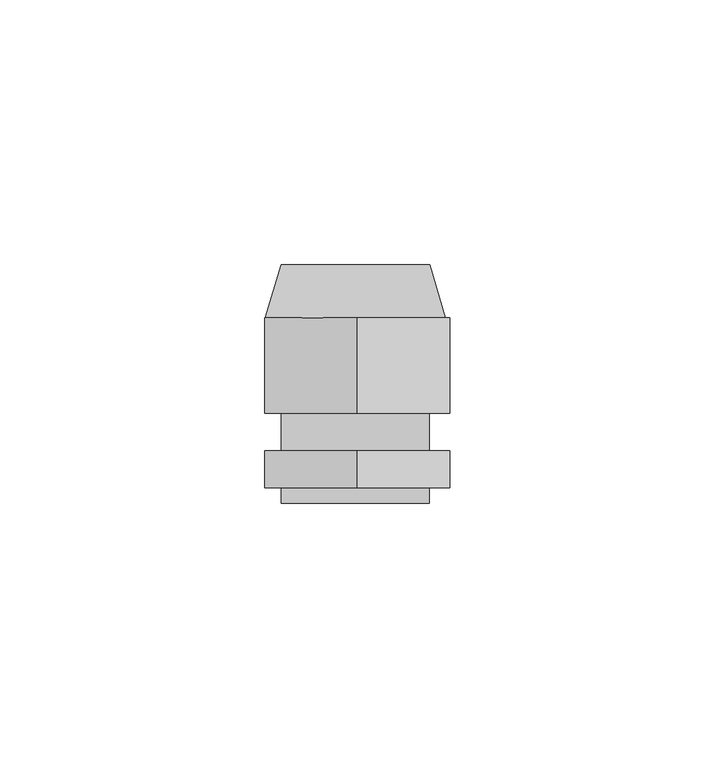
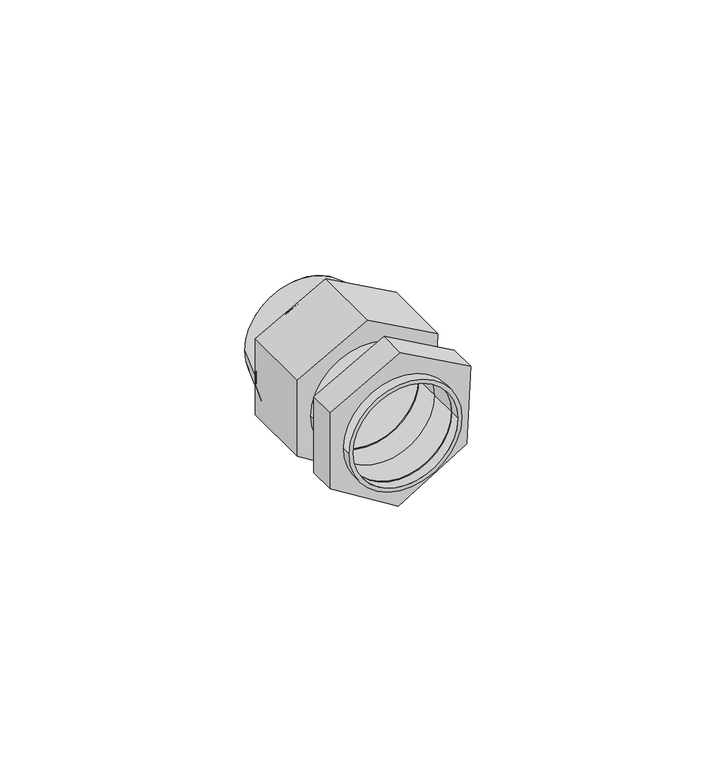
"""IFC4 building model written with IfcOpenShell, lengths in millimetres: cable carrier fitting geometry, Сальник_PGL_D_11-48_IP54 : Сальник PG 21 диаметр проводника 13-18мм IP54."""

from ifc_helpers import new_model, si_unit, point, frame, frame_2d, origin, place, context, project, spatial, polyline, circle_curve, trimmed, segment, composite_curve, outline, extrude, source, transform, mapped, element, save
from ifc_brep_helpers import plane_surface, revolved_surface, advanced_brep


def cable_carrier_fitting_39f01935(model_context):
    return source(origin(), model_context, "Body", "SolidModel", [
        advanced_brep(
        [(-12.9094864, 0.0, 0.0057257), (-12.9094864, -10.0, 0.0057257), (13.0905136, -10.0, 0.0057257), (13.0905136, 0.0, 0.0057257), (-16.9010286, -10.0, 0.0), (17.0989714, -10.0, 0.0), (-13.9010286, 0.0, 0.0), (14.0989714, 0.0, 0.0)],
        [
            (0, 1),
            (1, 2, circle_curve(frame((0.0905136, -10.0, 0.0057257), z_axis=(0.0, -1.0, 0.0), x_axis=(1.0, 0.0, 0.0)), 13.0)),
            (2, 3),
            (3, 0, circle_curve(frame((0.0905136, 0.0, 0.0057257), z_axis=(0.0, 1.0, 0.0), x_axis=(1.0, 0.0, 0.0)), 13.0)),
            (0, 3, circle_curve(frame((0.0905136, 0.0, 0.0057257), z_axis=(0.0, 1.0, 0.0), x_axis=(1.0, 0.0, 0.0)), 13.0)),
            (2, 1, circle_curve(frame((0.0905136, -10.0, 0.0057257), z_axis=(0.0, -1.0, 0.0), x_axis=(1.0, 0.0, 0.0)), 13.0)),
            (4, 5, circle_curve(frame((0.0989714, -10.0, 0.0), z_axis=(0.0, -1.0, 0.0), x_axis=(-1.0, 0.0, 0.0)), 17.0)),
            (5, 4, circle_curve(frame((0.0989714, -10.0, 0.0), z_axis=(0.0, -1.0, 0.0), x_axis=(1.0, 0.0, 0.0)), 17.0)),
            (6, 7, circle_curve(frame((0.0989714, 0.0, 0.0), z_axis=(0.0, 1.0, 0.0), x_axis=(1.0, 0.0, 0.0)), 14.0)),
            (7, 6, circle_curve(frame((0.0989714, 0.0, 0.0), z_axis=(0.0, 1.0, 0.0), x_axis=(-1.0, 0.0, 0.0)), 14.0)),
            (4, 6),
            (7, 5),
        ],
        [
            revolved_surface(polyline([(13.0905136, -10.0, 0.0057257), (13.0905136, 0.0, 0.0057257)]), (0.0905136, 9.180646, 0.0057257), (0.0, -1.0, 0.0)),
            plane_surface(frame((0.0989714, -10.0, 0.0), z_axis=(0.0, -1.0, 0.0), x_axis=(0.0, 0.0, -1.0))),
            plane_surface(frame((0.0989714, 0.0, 0.0), z_axis=(0.0, 1.0, 0.0), x_axis=(0.0, 0.0, -1.0))),
            revolved_surface(polyline([(14.098971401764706, 0.0, 0.0), (17.0989714, -10.0, 0.0)]), (0.0989714, 46.6666667, 0.0), (0.0, -1.0, 0.0)),
            revolved_surface(polyline([(-13.901028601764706, 0.0, 0.0), (-16.9010286, -10.0, 0.0)]), (0.0989714, 46.6666667, 0.0), (0.0, -1.0, 0.0)),
        ],
        [
            (0, [[1, 2, 3, 4]]),
            (0, [[-1, 5, -3, 6]]),
            (1, [[7, 8], [-2, -6]]),
            (2, [[9, 10], [-4, -5]]),
            (3, [[-7, 11, -10, 12]]),
            (4, [[-8, -12, -9, -11]]),
        ],
    ),
        extrude(outline(polyline([(-9.7677147, 17.0), (10.2099641, 17.9446426), (19.953433, 0.4785379), (10.2322853, -17.0), (-9.7677147, -17.0), (-20.3033684, 0.0), (-9.7677147, 17.0)]), holes=[composite_curve([segment(trimmed(circle_curve(frame_2d((0.0057257, 0.0905136)), 13.0), [point((0.0057257, 13.0905136))], [point((0.0057257, -12.9094864))], True, "CARTESIAN"), True, "CONTINUOUS"), segment(trimmed(circle_curve(frame_2d((0.0057257, 0.0905136)), 13.0), [point((0.0057257, -12.9094864))], [point((0.0057257, 13.0905136))], True, "CARTESIAN"), True, "CONTINUOUS")], self_intersect=False)]), frame((0.0, -28.0, 0.0), z_axis=(0.0, 1.0, 0.0), x_axis=(0.0, 0.0, 1.0)), (0.0, 0.0, 1.0), 18.0),
        extrude(outline(polyline([(-9.7677147, 17.0), (10.2099641, 17.9446426), (19.953433, 0.4785379), (10.2322853, -17.0), (-9.7677147, -17.0), (-20.3033684, 0.0), (-9.7677147, 17.0)]), holes=[composite_curve([segment(trimmed(circle_curve(frame_2d((0.0057257, 0.0905136)), 13.0), [point((0.0057257, 13.0905136))], [point((0.0057257, -12.9094864))], True, "CARTESIAN"), True, "CONTINUOUS"), segment(trimmed(circle_curve(frame_2d((0.0057257, 0.0905136)), 13.0), [point((0.0057257, -12.9094864))], [point((0.0057257, 13.0905136))], True, "CARTESIAN"), True, "CONTINUOUS")], self_intersect=False)]), frame((0.0, -42.1018563, 0.0), z_axis=(0.0, 1.0, 0.0), x_axis=(0.0, 0.0, 1.0)), (0.0, 0.0, 1.0), 7.0),
        extrude(outline(composite_curve([segment(trimmed(circle_curve(frame_2d((0.0032191, 0.0900025)), 14.0), [point((0.0032191, -13.9099975))], [point((0.0032191, 14.0900025))], False, "CARTESIAN"), True, "CONTINUOUS"), segment(trimmed(circle_curve(frame_2d((0.0032191, 0.0900025)), 14.0), [point((0.0032191, 14.0900025))], [point((0.0032191, -13.9099975))], False, "CARTESIAN"), True, "CONTINUOUS")], self_intersect=False), holes=[composite_curve([segment(trimmed(circle_curve(frame_2d((0.0057257, 0.0905136)), 13.0), [point((0.0057257, 13.0905136))], [point((0.0057257, -12.9094864))], True, "CARTESIAN"), True, "CONTINUOUS"), segment(trimmed(circle_curve(frame_2d((0.0057257, 0.0905136)), 13.0), [point((0.0057257, -12.9094864))], [point((0.0057257, 13.0905136))], True, "CARTESIAN"), True, "CONTINUOUS")], self_intersect=False)]), frame((0.0, -45.0, 0.0), z_axis=(0.0, 1.0, 0.0), x_axis=(0.0, 0.0, 1.0)), (0.0, 0.0, 1.0), 45.0),
    ])


if __name__ == "__main__":
    model = new_model("IFC4")
    model_context = context("Model", 3, world=origin())
    ifc_project = project(units=[si_unit("LENGTHUNIT", "METRE", prefix="MILLI")], contexts=[model_context])
    site = spatial("IfcSite", under=ifc_project)
    building = spatial("IfcBuilding", under=site)
    placement = place(None, origin())
    cable_carrier_fitting_shape = cable_carrier_fitting_39f01935(model_context)
    element("IfcCableCarrierFitting", 1, ObjectType="Сальник_PGL_D_11-48_IP54 : Сальник PG 21 диаметр проводника 13-18мм IP54", at=placement, inside=building, context=model_context, shape_type="MappedRepresentation", body=[
        mapped(cable_carrier_fitting_shape, transform((0.0, 0.0, 0.0), x_axis=(1.0, 0.0, 0.0), y_axis=(0.0, 1.0, 0.0), z_axis=(0.0, 0.0, 1.0))),
    ])
    save(model, "model.ifc")
